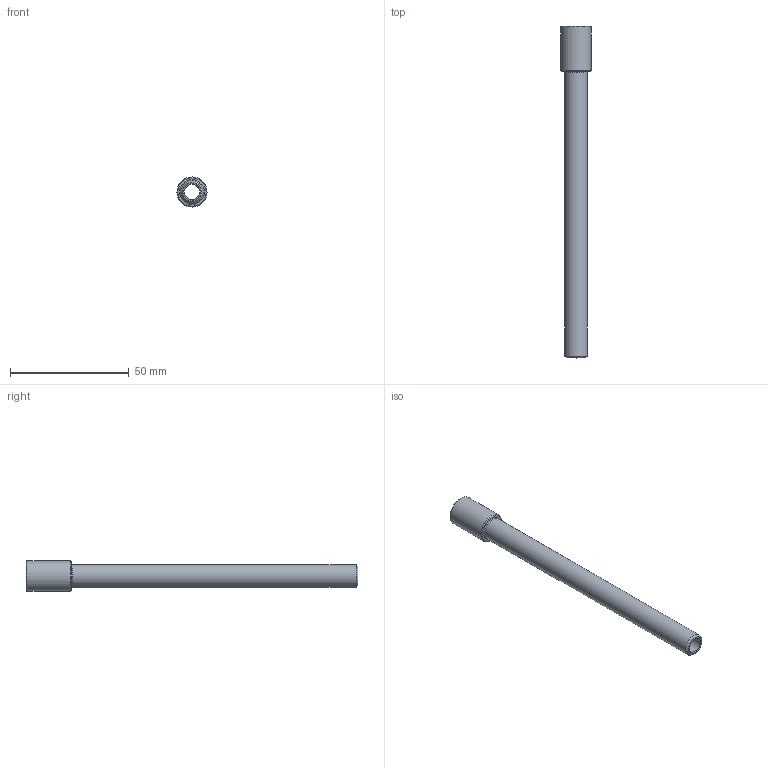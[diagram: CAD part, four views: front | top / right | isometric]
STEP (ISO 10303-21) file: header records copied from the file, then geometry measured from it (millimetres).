
FILE_DESCRIPTION(/* description */ (''),/* implementation_level */ '2;1');
FILE_NAME(/* name */ 'C:/Users/drich/Desktop/EP18X5-1_2 v1.step',/* time_stamp */ '2019-11-18T15:04:06-06:00',/* author */ (''),/* organization */ (''),/* preprocessor_version */ 'ST-DEVELOPER v18',/* originating_system */ 'Autodesk Translation Framework v8.12.0.6',/* authorisation */ '');
FILE_SCHEMA (('AUTOMOTIVE_DESIGN { 1 0 10303 214 3 1 1 }'));
Length unit declared in the file: inch
Products named in the file (2): EP18X5-1_2; EP18X4
Assembly tree (1 placements, depth 2):
  EP18X5-1_2
    EP18X4
Bounding box: 12.7 x 139.7 x 12.7 mm (x, y, z)
Volume: 6397.1 mm3; surface area: 7436.6 mm2
Topology: 1 solids, 1 shells, 23 faces, 55 edges, 37 vertices
Faces by surface type: plane 11, cone 7, cylinder 5
Full cylindrical faces by diameter (mm): 6.35 x1, 7.62 x1, 8.707 x1, 9.621 x1, 12.7 x1
Entity records: 740 total; most frequent: CARTESIAN_POINT 132, DIRECTION 124, ORIENTED_EDGE 110, EDGE_CURVE 55, AXIS2_PLACEMENT_3D 50, VERTEX_POINT 37, EDGE_LOOP 28, LINE 24
